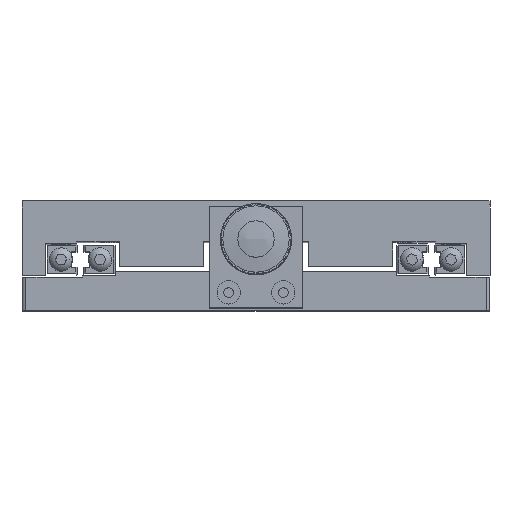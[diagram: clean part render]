
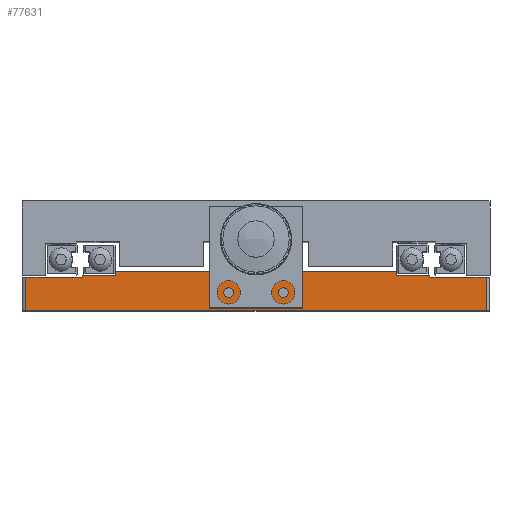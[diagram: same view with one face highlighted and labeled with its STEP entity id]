
A CAD part, top view. The second image highlights one B-rep face of the part: STEP entity #77631.
In plain terms, the highlighted planar face has unit normal (0, 0, 1).
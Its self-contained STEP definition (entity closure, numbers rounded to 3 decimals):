
#14996 = ORIENTED_EDGE ( 'NONE', *, *, #130913, .F. ) ;
#14998 = ORIENTED_EDGE ( 'NONE', *, *, #130911, .F. ) ;
#15001 = ORIENTED_EDGE ( 'NONE', *, *, #130909, .T. ) ;
#15003 = ORIENTED_EDGE ( 'NONE', *, *, #130915, .T. ) ;
#15005 = ORIENTED_EDGE ( 'NONE', *, *, #130923, .F. ) ;
#15007 = ORIENTED_EDGE ( 'NONE', *, *, #131033, .F. ) ;
#15009 = ORIENTED_EDGE ( 'NONE', *, *, #131021, .F. ) ;
#15011 = ORIENTED_EDGE ( 'NONE', *, *, #131015, .F. ) ;
#15014 = ORIENTED_EDGE ( 'NONE', *, *, #130907, .T. ) ;
#15016 = ORIENTED_EDGE ( 'NONE', *, *, #131001, .F. ) ;
#15018 = ORIENTED_EDGE ( 'NONE', *, *, #130985, .F. ) ;
#15020 = ORIENTED_EDGE ( 'NONE', *, *, #130973, .F. ) ;
#15022 = ORIENTED_EDGE ( 'NONE', *, *, #130947, .F. ) ;
#15024 = ORIENTED_EDGE ( 'NONE', *, *, #130963, .T. ) ;
#27545 = FACE_OUTER_BOUND ( 'NONE', #77063, .T. ) ;
#27617 = FACE_BOUND ( 'NONE', #77055, .T. ) ;
#27627 = FACE_BOUND ( 'NONE', #77053, .T. ) ;
#41373 = AXIS2_PLACEMENT_3D ( 'NONE', #89956, #89957, #89959 ) ;
#41378 = AXIS2_PLACEMENT_3D ( 'NONE', #89974, #89976, #89977 ) ;
#58091 = AXIS2_PLACEMENT_3D ( 'NONE', #128982, #128980, #128988 ) ;
#61504 = CARTESIAN_POINT ( 'NONE',  ( -13.145, -9.695, 60. ) ) ;
#61508 = CARTESIAN_POINT ( 'NONE',  ( -27.145, -9.695, 60. ) ) ;
#77053 = EDGE_LOOP ( 'NONE', ( #14998 ) ) ;
#77055 = EDGE_LOOP ( 'NONE', ( #14996 ) ) ;
#77063 = EDGE_LOOP ( 'NONE', ( #15001, #15003, #15005, #15007, #15009, #15011, #15014, #15016, #15018, #15020, #15022, #15024 ) ) ;
#77631 = ADVANCED_FACE ( 'NONE', ( #27617, #27627, #27545 ), #128986, .F. ) ;
#80120 = VECTOR ( 'NONE', #89927, 1000. ) ;
#80127 = LINE ( 'NONE', #89923, #80120 ) ;
#80129 = LINE ( 'NONE', #89940, #80131 ) ;
#80131 = VECTOR ( 'NONE', #89943, 1000. ) ;
#80133 = CIRCLE ( 'NONE', #41373, 1.25 ) ;
#80137 = CIRCLE ( 'NONE', #41378, 1.25 ) ;
#80139 = LINE ( 'NONE', #89987, #80141 ) ;
#80141 = VECTOR ( 'NONE', #89990, 1000. ) ;
#80154 = LINE ( 'NONE', #90040, #80156 ) ;
#80156 = VECTOR ( 'NONE', #90043, 1000. ) ;
#80201 = LINE ( 'NONE', #90207, #80205 ) ;
#80205 = VECTOR ( 'NONE', #90210, 1000. ) ;
#80227 = LINE ( 'NONE', #90315, #80239 ) ;
#80236 = LINE ( 'NONE', #90391, #80258 ) ;
#80239 = VECTOR ( 'NONE', #90324, 1000. ) ;
#80258 = VECTOR ( 'NONE', #90402, 1000. ) ;
#80284 = LINE ( 'NONE', #90487, #80286 ) ;
#80286 = VECTOR ( 'NONE', #90490, 1000. ) ;
#80296 = LINE ( 'NONE', #90596, #80316 ) ;
#80316 = VECTOR ( 'NONE', #90608, 1000. ) ;
#80329 = LINE ( 'NONE', #90681, #80340 ) ;
#80340 = VECTOR ( 'NONE', #90684, 1000. ) ;
#80353 = LINE ( 'NONE', #90729, #80355 ) ;
#80355 = VECTOR ( 'NONE', #90732, 1000. ) ;
#80370 = LINE ( 'NONE', #90850, #80374 ) ;
#80374 = VECTOR ( 'NONE', #90854, 1000. ) ;
#89923 = CARTESIAN_POINT ( 'NONE',  ( -81.395, -4.195, 60. ) ) ;
#89927 = DIRECTION ( 'NONE',  ( -1., 0., 0. ) ) ;
#89940 = CARTESIAN_POINT ( 'NONE',  ( -81.395, -14.195, 60. ) ) ;
#89943 = DIRECTION ( 'NONE',  ( 1., 0., 0. ) ) ;
#89956 = CARTESIAN_POINT ( 'NONE',  ( -14.395, -9.695, 60. ) ) ;
#89957 = DIRECTION ( 'NONE',  ( 0., 0., 1. ) ) ;
#89959 = DIRECTION ( 'NONE',  ( 1., 0., 0. ) ) ;
#89974 = CARTESIAN_POINT ( 'NONE',  ( -28.395, -9.695, 60. ) ) ;
#89976 = DIRECTION ( 'NONE',  ( 0., 0., 1. ) ) ;
#89977 = DIRECTION ( 'NONE',  ( 1., 0., 0. ) ) ;
#89987 = CARTESIAN_POINT ( 'NONE',  ( 37.605, -9.195, 60. ) ) ;
#89990 = DIRECTION ( 'NONE',  ( 0., 1., 0. ) ) ;
#90040 = CARTESIAN_POINT ( 'NONE',  ( 38.605, -5.695, 60. ) ) ;
#90043 = DIRECTION ( 'NONE',  ( 1., 0., 0. ) ) ;
#90207 = CARTESIAN_POINT ( 'NONE',  ( -81.395, -5.695, 60. ) ) ;
#90210 = DIRECTION ( 'NONE',  ( 1., 0., 0. ) ) ;
#90315 = CARTESIAN_POINT ( 'NONE',  ( -80.395, -9.195, 60. ) ) ;
#90324 = DIRECTION ( 'NONE',  ( 0., -1., 0. ) ) ;
#90391 = CARTESIAN_POINT ( 'NONE',  ( -65.895, -5.695, 60. ) ) ;
#90402 = DIRECTION ( 'NONE',  ( 0., 1., 0. ) ) ;
#90487 = CARTESIAN_POINT ( 'NONE',  ( -65.895, -5.195, 60. ) ) ;
#90490 = DIRECTION ( 'NONE',  ( 1., 0., 0. ) ) ;
#90596 = CARTESIAN_POINT ( 'NONE',  ( -57.395, -5.195, 60. ) ) ;
#90608 = DIRECTION ( 'NONE',  ( 0., 1., 0. ) ) ;
#90681 = CARTESIAN_POINT ( 'NONE',  ( 14.605, -5.195, 60. ) ) ;
#90684 = DIRECTION ( 'NONE',  ( 0., -1., 0. ) ) ;
#90729 = CARTESIAN_POINT ( 'NONE',  ( 23.105, -5.195, 60. ) ) ;
#90732 = DIRECTION ( 'NONE',  ( 1., 0., 0. ) ) ;
#90850 = CARTESIAN_POINT ( 'NONE',  ( 23.105, -5.695, 60. ) ) ;
#90854 = DIRECTION ( 'NONE',  ( 0., -1., 0. ) ) ;
#97539 = CARTESIAN_POINT ( 'NONE',  ( 14.605, -4.195, 60. ) ) ;
#97541 = CARTESIAN_POINT ( 'NONE',  ( -57.395, -4.195, 60. ) ) ;
#97542 = CARTESIAN_POINT ( 'NONE',  ( 23.105, -5.195, 60. ) ) ;
#97543 = CARTESIAN_POINT ( 'NONE',  ( 23.105, -5.695, 60. ) ) ;
#97544 = CARTESIAN_POINT ( 'NONE',  ( 14.605, -5.195, 60. ) ) ;
#97545 = CARTESIAN_POINT ( 'NONE',  ( -57.395, -5.195, 60. ) ) ;
#97553 = CARTESIAN_POINT ( 'NONE',  ( -80.395, -5.695, 60. ) ) ;
#97554 = CARTESIAN_POINT ( 'NONE',  ( -65.895, -5.195, 60. ) ) ;
#97557 = CARTESIAN_POINT ( 'NONE',  ( -65.895, -5.695, 60. ) ) ;
#97559 = CARTESIAN_POINT ( 'NONE',  ( -80.395, -14.195, 60. ) ) ;
#97562 = CARTESIAN_POINT ( 'NONE',  ( 37.605, -5.695, 60. ) ) ;
#97567 = CARTESIAN_POINT ( 'NONE',  ( 37.605, -14.195, 60. ) ) ;
#128070 = VERTEX_POINT ( 'NONE', #61504 ) ;
#128072 = VERTEX_POINT ( 'NONE', #61508 ) ;
#128980 = DIRECTION ( 'NONE',  ( 0., 0., -1. ) ) ;
#128982 = CARTESIAN_POINT ( 'NONE',  ( -21.395, -9.195, 60. ) ) ;
#128986 = PLANE ( 'NONE',  #58091 ) ;
#128988 = DIRECTION ( 'NONE',  ( -1., 0., 0. ) ) ;
#130907 = EDGE_CURVE ( 'NONE', #169876, #169886, #80127, .T. ) ;
#130909 = EDGE_CURVE ( 'NONE', #169964, #169995, #80129, .T. ) ;
#130911 = EDGE_CURVE ( 'NONE', #128070, #128070, #80133, .T. ) ;
#130913 = EDGE_CURVE ( 'NONE', #128072, #128072, #80137, .T. ) ;
#130915 = EDGE_CURVE ( 'NONE', #169995, #169976, #80139, .T. ) ;
#130923 = EDGE_CURVE ( 'NONE', #169894, #169976, #80154, .T. ) ;
#130947 = EDGE_CURVE ( 'NONE', #169938, #169954, #80201, .T. ) ;
#130963 = EDGE_CURVE ( 'NONE', #169938, #169964, #80227, .T. ) ;
#130973 = EDGE_CURVE ( 'NONE', #169954, #169942, #80236, .T. ) ;
#130985 = EDGE_CURVE ( 'NONE', #169942, #169902, #80284, .T. ) ;
#131001 = EDGE_CURVE ( 'NONE', #169902, #169886, #80296, .T. ) ;
#131015 = EDGE_CURVE ( 'NONE', #169876, #169898, #80329, .T. ) ;
#131021 = EDGE_CURVE ( 'NONE', #169898, #169890, #80353, .T. ) ;
#131033 = EDGE_CURVE ( 'NONE', #169890, #169894, #80370, .T. ) ;
#169876 = VERTEX_POINT ( 'NONE', #97539 ) ;
#169886 = VERTEX_POINT ( 'NONE', #97541 ) ;
#169890 = VERTEX_POINT ( 'NONE', #97542 ) ;
#169894 = VERTEX_POINT ( 'NONE', #97543 ) ;
#169898 = VERTEX_POINT ( 'NONE', #97544 ) ;
#169902 = VERTEX_POINT ( 'NONE', #97545 ) ;
#169938 = VERTEX_POINT ( 'NONE', #97553 ) ;
#169942 = VERTEX_POINT ( 'NONE', #97554 ) ;
#169954 = VERTEX_POINT ( 'NONE', #97557 ) ;
#169964 = VERTEX_POINT ( 'NONE', #97559 ) ;
#169976 = VERTEX_POINT ( 'NONE', #97562 ) ;
#169995 = VERTEX_POINT ( 'NONE', #97567 ) ;
